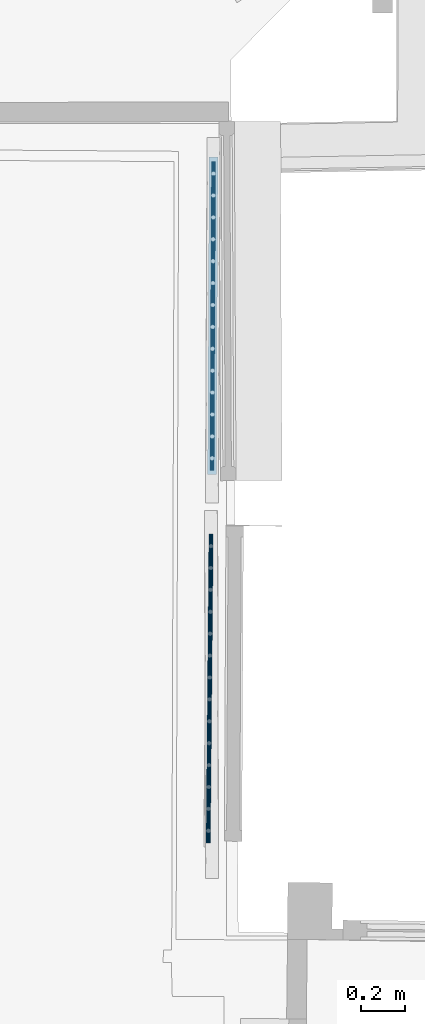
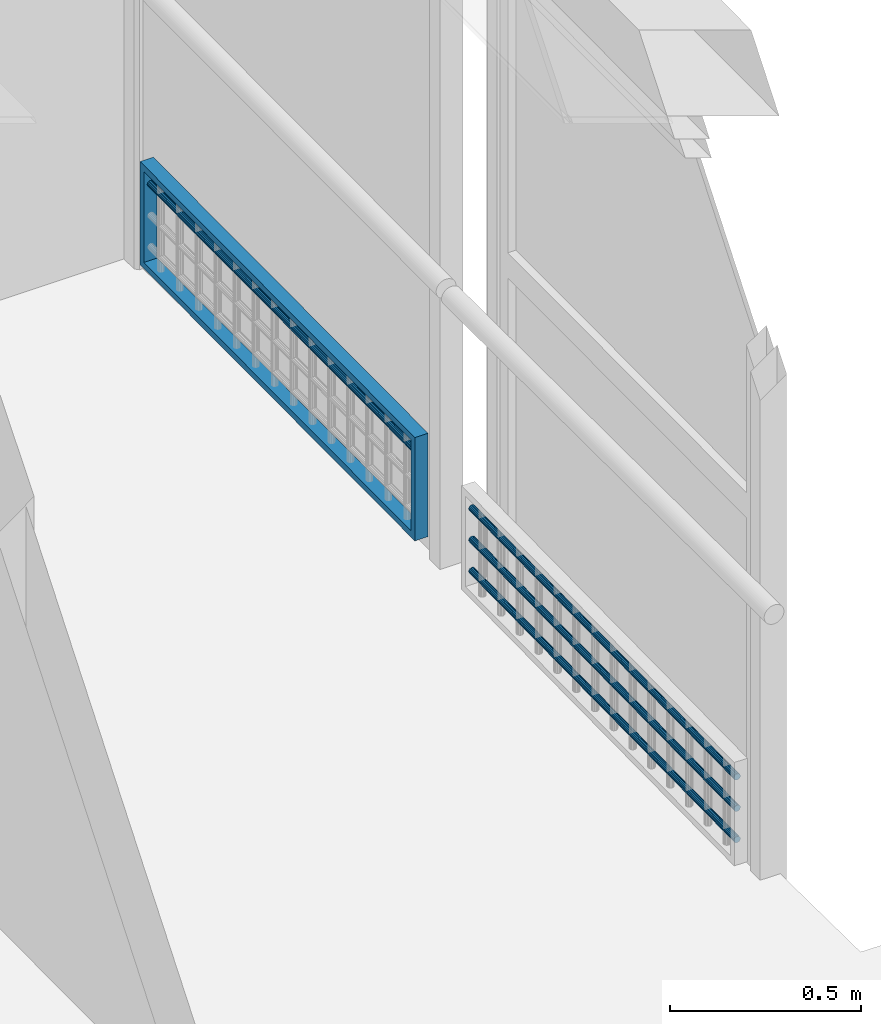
# One storey, part 27 of 72: 5 members, 2 elements without a shape of their own.
"""IFC2X3 building model written with IfcOpenShell, lengths in centimetres."""

import ifcopenshell
import ifcopenshell.guid

model = None  # the IFC model being written
_history = None  # IfcOwnerHistory: only IFC2X3 demands one
_inside = {}  # id of a spatial element -> (the spatial element, [elements in it])
_under = {}  # id of a project, library or spatial element -> (it, [spatial elements below it])
_declared = {}  # id of a project -> (the project, [libraries it declares])
_typed = {}  # id of a type object -> (the type object, [elements of that type])
_made_of = {}  # id of a material, layer set ... -> (it, [elements and type objects made of it])


def new_model(schema):
    """Start an empty IFC model of exactly this schema.

    Asked for "IFC4X3", IfcOpenShell would pick the latest addendum, in which some entities
    have other attributes; the version numbers below select the first issue.
    IFC2X3 requires an IfcOwnerHistory on every rooted entity: one is made here for all.
    """
    global model, _history
    if schema == "IFC4X3":
        model = ifcopenshell.file(schema_version=(4, 3, 0, 0))
    else:
        model = ifcopenshell.file(schema=schema)
    _inside.clear()
    _under.clear()
    _declared.clear()
    _typed.clear()
    _made_of.clear()
    _history = None
    if model.schema == "IFC2X3":
        org = make("IfcOrganization", Name="unknown")
        user = make(
            "IfcPersonAndOrganization",
            ThePerson=make("IfcPerson", FamilyName="unknown"),
            TheOrganization=org,
        )
        app = make(
            "IfcApplication",
            ApplicationDeveloper=org,
            Version="unknown",
            ApplicationFullName="unknown",
            ApplicationIdentifier="unknown",
        )
        _history = make(
            "IfcOwnerHistory",
            OwningUser=user,
            OwningApplication=app,
            ChangeAction="ADDED",
            CreationDate=0,
        )
    return model


def make(cls, **values):
    """One entity of the class cls with the attributes given. An attribute that is None is left unset."""
    return model.create_entity(
        cls, **{name: value for name, value in values.items() if value is not None}
    )


def entity(cls, *values):
    """Any entity or typed value of the class cls, its attributes in the order of the schema. None: left unset."""
    e = model.create_entity(cls)
    for i, value in enumerate(values):
        if value is not None:
            e[i] = value
    return e


def rooted(cls, **values):
    """An entity with a GlobalId (a new one), such as an element, a storey or a relation."""
    return make(cls, GlobalId=ifcopenshell.guid.new(), OwnerHistory=_history, **values)


def si_unit(unit_type, name, prefix=None):
    """IfcSIUnit, for example si_unit("LENGTHUNIT", "METRE", prefix="MILLI")."""
    return make("IfcSIUnit", UnitType=unit_type, Prefix=prefix, Name=name)


def converted_unit(unit_type, name, factor, base, dimensions=None, offset=None):
    """IfcConversionBasedUnit, such as the inch: factor (a typed value) times the base unit."""
    return make(
        "IfcConversionBasedUnit"
        if offset is None
        else "IfcConversionBasedUnitWithOffset",
        ConversionOffset=offset,
        Dimensions=None
        if dimensions is None
        else entity("IfcDimensionalExponents", *dimensions),
        UnitType=unit_type,
        Name=name,
        ConversionFactor=make(
            "IfcMeasureWithUnit", ValueComponent=factor, UnitComponent=base
        ),
    )


def assignment(units):
    """IfcUnitAssignment: the units of a project."""
    return None if units is None else make("IfcUnitAssignment", Units=units)


def point(xyz):
    """IfcCartesianPoint."""
    return None if xyz is None else make("IfcCartesianPoint", Coordinates=xyz)


def direction(xyz):
    """IfcDirection."""
    return None if xyz is None else make("IfcDirection", DirectionRatios=xyz)


def frame(location, z_axis=None, x_axis=None):
    """IfcAxis2Placement3D, a coordinate frame: its origin and axes. An axis left out is left unset."""
    return make(
        "IfcAxis2Placement3D",
        Location=point(location),
        Axis=direction(z_axis),
        RefDirection=direction(x_axis),
    )


def origin():
    """The frame at (0, 0, 0) with its axes left unset."""
    return frame((0.0, 0.0, 0.0))


def origin_with_axes():
    """The frame at (0, 0, 0) with the z axis (0, 0, 1) and the x axis (1, 0, 0) written out."""
    return frame((0.0, 0.0, 0.0), z_axis=(0.0, 0.0, 1.0), x_axis=(1.0, 0.0, 0.0))


def place(relative_to, where):
    """IfcLocalPlacement: puts the frame where relative to a parent placement (None: the world)."""
    return make(
        "IfcLocalPlacement", PlacementRelTo=relative_to, RelativePlacement=where
    )


def context(
    kind, dimensions, precision=None, world=None, true_north=None, identifier=None
):
    """IfcGeometricRepresentationContext, for example the 3D "Model" context."""
    return make(
        "IfcGeometricRepresentationContext",
        ContextIdentifier=identifier,
        ContextType=kind,
        CoordinateSpaceDimension=dimensions,
        Precision=precision,
        WorldCoordinateSystem=world,
        TrueNorth=true_north,
    )


def subcontext(parent, identifier, kind, view, scale=None):
    """IfcGeometricRepresentationSubContext, for example "Body" below "Model"."""
    return make(
        "IfcGeometricRepresentationSubContext",
        ContextIdentifier=identifier,
        ContextType=kind,
        ParentContext=parent,
        TargetScale=scale,
        TargetView=view,
    )


def project(units=None, contexts=None):
    """IfcProject with its units and contexts."""
    return rooted(
        "IfcProject",
        Name="project",
        RepresentationContexts=contexts,
        UnitsInContext=assignment(units),
    )


def spatial(cls, under=None, at=None, **own):
    """A site, building, storey or space (cls), placed at a placement, below another one or the project."""
    s = rooted(cls, ObjectPlacement=at, **own)
    if under is not None:
        _under.setdefault(under.id(), (under, []))[1].append(s)
    return s


def faces_of(points, faces, orient=None, outer=None):
    """IfcFace entities. A face is a list of loops; a loop is a list of indices into points, from 0.

    orient and outer hold one flag for each loop. By default every Orientation is true, the
    first loop of a face is its IfcFaceOuterBound and the others are IfcFaceBound.
    """
    made = []
    for i, loops in enumerate(faces):
        bounds = []
        for j, loop in enumerate(loops):
            is_outer = j == 0 if outer is None else outer[i][j]
            bounds.append(
                make(
                    "IfcFaceOuterBound" if is_outer else "IfcFaceBound",
                    Bound=make("IfcPolyLoop", Polygon=[points[k] for k in loop]),
                    Orientation=True if orient is None else orient[i][j],
                )
            )
        made.append(make("IfcFace", Bounds=bounds))
    return made


def faceted_brep(points, faces, orient=None, outer=None, voids=None):
    """IfcFacetedBrep: a solid bounded by flat faces; with voids (closed shells), ...WithVoids."""
    shared = [point(p) for p in points]
    hull = make("IfcClosedShell", CfsFaces=faces_of(shared, faces, orient, outer))
    if voids is None:
        return make("IfcFacetedBrep", Outer=hull)
    return make(
        "IfcFacetedBrepWithVoids",
        Outer=hull,
        Voids=[
            make(cls, CfsFaces=faces_of(shared, fs, o, b)) for cls, fs, o, b in voids
        ],
    )


def shape(context_of_items, identifier, shape_type, items):
    """IfcShapeRepresentation: the items that make up one representation, for example the "Body"."""
    return make(
        "IfcShapeRepresentation",
        ContextOfItems=context_of_items,
        RepresentationIdentifier=identifier,
        RepresentationType=shape_type,
        Items=items,
    )


def material(Name=None, Category=None):
    """IfcMaterial."""
    return make("IfcMaterial", Name=Name, Category=Category)


def made_of(thing, what):
    """Note that an element or type object is made of a material, layer set ...; save() writes the relation."""
    if what is not None:
        _made_of.setdefault(what.id(), (what, []))[1].append(thing)
    return thing


def type_object(cls, material=None, **own):
    """A type object (cls), such as IfcWallType, which elements share."""
    return made_of(rooted(cls, **own), material)


def element(
    cls,
    number,
    at=None,
    inside=None,
    cuts=None,
    type_object=None,
    material=None,
    context=None,
    identifier="Body",
    shape_type=None,
    held_by="IfcProductDefinitionShape",
    body=None,
    shapes=None,
    **own,
):
    """One element of the class cls, such as IfcWall. Its Tag is "e" and its number.

    at: its placement. inside: the storey or other place that contains it. cuts: it is an
    opening in that element (IfcRelVoidsElement). A single representation is given by context,
    identifier, shape_type and body (its items); several are given by shapes. held_by: the class
    of the entity that holds the representations. save() writes the other relations.
    """
    e = rooted(cls, Tag="e%d" % number, ObjectPlacement=at, **own)
    if body is not None:
        shapes = [shape(context, identifier, shape_type, body)]
    if shapes is not None:
        e.Representation = make(held_by, Representations=shapes)
    if inside is not None:
        _inside.setdefault(inside.id(), (inside, []))[1].append(e)
    if cuts is not None:
        rooted(
            "IfcRelVoidsElement", RelatingBuildingElement=cuts, RelatedOpeningElement=e
        )
    if type_object is not None:
        _typed.setdefault(type_object.id(), (type_object, []))[1].append(e)
    return made_of(e, material)


def aggregate(whole, parts):
    """IfcRelAggregates: a whole, such as a stair, and the parts it consists of."""
    return rooted("IfcRelAggregates", RelatingObject=whole, RelatedObjects=parts)


def save(model, path):
    """Write the relations noted so far, then the file.

    IfcRelAggregates (storeys below a building ...), IfcRelContainedInSpatialStructure (elements
    in a storey), IfcRelDefinesByType, IfcRelAssociatesMaterial and IfcRelDeclares: one each for
    every whole, place, type object, material and project.
    """
    for whole, parts in _under.values():
        aggregate(whole, parts)
    for where, things in _inside.values():
        rooted(
            "IfcRelContainedInSpatialStructure",
            RelatedElements=things,
            RelatingStructure=where,
        )
    for kind, things in _typed.values():
        rooted("IfcRelDefinesByType", RelatedObjects=things, RelatingType=kind)
    for what, things in _made_of.values():
        rooted("IfcRelAssociatesMaterial", RelatedObjects=things, RelatingMaterial=what)
    for by, libraries in _declared.values():
        rooted("IfcRelDeclares", RelatingContext=by, RelatedDefinitions=libraries)
    model.write(path)


model = new_model("IFC2X3")

# Units and contexts
model_context = context("Model", 3, precision=0.0001, world=origin(), true_north=direction((0.225632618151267, 0.974212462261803, 0.0)))
body_context = subcontext(model_context, "Body", "Model", "MODEL_VIEW")
ifc_project = project(units=[si_unit("LENGTHUNIT", "METRE", prefix="CENTI"), si_unit("AREAUNIT", "SQUARE_METRE", prefix="CENTI"), si_unit("VOLUMEUNIT", "CUBIC_METRE", prefix="CENTI"), converted_unit("PLANEANGLEUNIT", "DEGREE", entity("IfcRatioMeasure", 0.0174532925), si_unit("PLANEANGLEUNIT", "RADIAN"), dimensions=[0, 0, 0, 0, 0, 0, 0])], contexts=[model_context])

# Site, building, storey
site_placement = place(None, origin_with_axes())
site = spatial("IfcSite", under=ifc_project, at=site_placement, Name="Default Site", CompositionType="ELEMENT")
building_placement = place(site_placement, origin_with_axes())
building = spatial("IfcBuilding", under=site, at=building_placement, Name="Default Building", CompositionType="ELEMENT")
storey_placement = place(building_placement, frame((0.0, 0.0, 853.910374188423), z_axis=(0.0, 0.0, 1.0), x_axis=(1.0, 0.0, 0.0)))
storey = spatial("IfcBuildingStorey", under=building, at=storey_placement, Name="Niveau 2", CompositionType="ELEMENT", Elevation=853.910374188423)

# Assembly, members
building_element_proxy_type = type_object("IfcBuildingElementProxyType", Name="Type Object", PredefinedType="NOTDEFINED")
assembly_1_placement = place(storey_placement, frame((1064.66913892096, -34.4836063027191, 11.9999999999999), z_axis=(0.0, 0.0, 1.0), x_axis=(-0.00922380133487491, -0.999957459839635, 0.0)))
assembly_1 = element("IfcElementAssembly", 1, at=assembly_1_placement, inside=storey, type_object=building_element_proxy_type, Name="Panneau 1702022", ObjectType="Precast panel", PredefinedType="USERDEFINED")
ifc_material = material(Name="Aluminium satiné")
member_1_placement = place(assembly_1_placement, frame((142.999994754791, 0.342020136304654, 25.5603075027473), z_axis=(1.0, -3.72965547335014e-15, -2.16493489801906e-15), x_axis=(-4.31252256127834e-15, -0.866024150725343, -0.500002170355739)))
member_1 = element("IfcMember", 2, at=member_1_placement, material=ifc_material, Name="4294967172", context=body_context, shape_type="Brep", body=[
    faceted_brep([(1.94289029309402e-13, 2.52575738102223e-13, -4.44089209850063e-14), (-0.347296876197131, 3.08086889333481e-13, -4.59126712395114e-14), (-0.673647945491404, -0.118779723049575, -4.73258319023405e-14), (-0.939693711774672, -0.342018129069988, -4.8477969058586e-14), (-1.11334216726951, -0.64278433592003, -4.92301051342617e-14), (-1.1736511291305, -0.984805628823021, -4.94915317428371e-14), (-1.11334356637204, -1.32682410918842, -4.92307045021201e-14), (-0.939696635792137, -1.62759289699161, -4.8479096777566e-14), (-0.673653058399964, -1.85083187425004, -4.7327356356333e-14), (-0.347301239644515, -1.96961451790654, -4.59143985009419e-14), (-4.3634471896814e-06, -1.96961451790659, -4.44106482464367e-14), (0.326346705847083, -1.85083479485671, -4.29974875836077e-14), (0.592392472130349, -1.6275963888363, -4.18453504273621e-14), (0.766040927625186, -1.32683018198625, -4.10932143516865e-14), (0.826349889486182, -0.984808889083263, -4.08317877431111e-14), (0.766042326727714, -0.642790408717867, -4.10926149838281e-14), (0.592395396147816, -0.342021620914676, -4.18442227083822e-14), (0.326351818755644, -0.118782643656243, -4.29959631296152e-14), (0.326351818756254, -0.118782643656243, -140.999994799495), (0.592395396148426, -0.342021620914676, -140.999994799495), (0.766042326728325, -0.642790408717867, -140.999994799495), (0.826349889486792, -0.984808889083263, -140.999994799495), (0.766040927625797, -1.32683018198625, -140.999994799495), (0.592392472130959, -1.6275963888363, -140.999994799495), (0.326346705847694, -1.85083479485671, -140.999994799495), (-4.36344657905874e-06, -1.96961451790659, -140.999994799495), (-0.347301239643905, -1.96961451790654, -140.999994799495), (-0.673653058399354, -1.85083187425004, -140.999994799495), (-0.939696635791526, -1.62759289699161, -140.999994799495), (-1.11334356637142, -1.32682410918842, -140.999994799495), (-1.17365112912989, -0.984805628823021, -140.999994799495), (-1.1133421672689, -0.64278433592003, -140.999994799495), (-0.939693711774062, -0.342018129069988, -140.999994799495), (-0.673647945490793, -0.118779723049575, -140.999994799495), (-0.347296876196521, 3.08086889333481e-13, -140.999994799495), (8.04911692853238e-13, 2.52575738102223e-13, -140.999994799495), (0.326351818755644, -0.118782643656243, -4.44089209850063e-14), (0.592395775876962, -0.34202116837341, -4.44089193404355e-14), (0.592395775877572, -0.34202116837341, -140.999994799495), (0.592395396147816, -0.342021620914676, -4.44089209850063e-14), (0.766043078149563, -0.642789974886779, -6.66133782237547e-14), (0.766043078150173, -0.642789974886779, -140.999994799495), (0.766042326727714, -0.642790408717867, -6.66133814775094e-14), (0.826348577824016, -0.984809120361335, -6.66133871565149e-14), (0.826348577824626, -0.984809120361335, -140.999994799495), (0.826349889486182, -0.984808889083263, -6.66133814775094e-14), (0.7660414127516, -1.32683026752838, -6.66133793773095e-14), (0.76604141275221, -1.32683026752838, -140.999994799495), (0.766040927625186, -1.32683018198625, -6.66133814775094e-14), (0.592392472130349, -1.6275963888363, -6.66133814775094e-14), (0.326346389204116, -1.85083441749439, -6.66133828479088e-14), (0.326346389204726, -1.85083441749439, -140.999994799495), (0.326346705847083, -1.85083479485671, -6.66133814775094e-14), (-3.90791506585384e-06, -1.96961576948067, -6.66133795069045e-14), (-3.90791445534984e-06, -1.96961576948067, -140.999994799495), (-4.3634471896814e-06, -1.96961451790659, -6.66133814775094e-14), (-0.347301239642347, -1.96961365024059, -6.66133814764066e-14), (-0.347301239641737, -1.96961365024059, -140.999994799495), (-0.347301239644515, -1.96961451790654, -6.66133814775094e-14), (-0.673652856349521, -1.85083131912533, -6.6613380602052e-14), (-0.673652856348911, -1.85083131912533, -140.999994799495), (-0.673653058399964, -1.85083187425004, -6.66133814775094e-14), (-0.939697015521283, -1.62759334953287, -6.66133831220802e-14), (-0.939697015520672, -1.62759334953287, -140.999994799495), (-0.939696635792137, -1.62759289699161, -6.66133814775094e-14), (-1.11334431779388, -1.32682454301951, -6.66133847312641e-14), (-1.11334431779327, -1.32682454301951, -140.999994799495), (-1.11334356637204, -1.32682410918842, -6.66133814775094e-14), (-1.17364981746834, -0.98480539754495, -6.66133757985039e-14), (-1.17364981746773, -0.98480539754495, -140.999994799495), (-1.1736511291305, -0.984805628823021, -6.66133814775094e-14), (-1.11334265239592, -0.642784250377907, -6.66133835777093e-14), (-1.11334265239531, -0.642784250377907, -140.999994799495), (-1.11334216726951, -0.64278433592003, -6.66133814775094e-14), (-0.939693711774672, -0.342018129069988, -6.66133814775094e-14), (-0.939693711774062, -0.342018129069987, -140.999994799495), (-1.1133421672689, -0.642784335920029, -140.999994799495), (-0.673647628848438, -0.118780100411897, -6.66133801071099e-14), (-0.673647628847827, -0.118780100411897, -140.999994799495), (-0.673647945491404, -0.118779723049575, -6.66133814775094e-14), (-0.347297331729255, 1.25157438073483e-06, -6.66133834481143e-14), (-0.347297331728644, 1.25157438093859e-06, -140.999994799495), (-0.673647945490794, -0.118779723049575, -140.999994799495), (-0.347296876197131, 3.08086889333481e-13, -6.66133814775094e-14), (-1.97343633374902e-12, -8.67665696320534e-07, -4.44089209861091e-14), (-1.36281366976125e-12, -8.67665696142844e-07, -140.999994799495), (-0.347296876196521, 3.08264578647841e-13, -140.999994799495), (0.326351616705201, -0.118783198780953, -4.44089218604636e-14), (0.326351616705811, -0.118783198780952, -140.999994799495), (8.0494811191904e-13, 2.52675797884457e-13, -140.999994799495)], [[[0, 1, 2, 3, 4, 5, 6, 7, 8, 9, 10, 11, 12, 13, 14, 15, 16, 17]], [[18, 19, 20, 21, 22, 23, 24, 25, 26, 27, 28, 29, 30, 31, 32, 33, 34, 35]], [[36, 37, 38, 18]], [[39, 40, 41, 19]], [[42, 43, 44, 20]], [[45, 46, 47, 21]], [[48, 49, 23, 22]], [[49, 50, 51, 23]], [[52, 53, 54, 24]], [[55, 56, 57, 25]], [[58, 59, 60, 26]], [[61, 62, 63, 27]], [[64, 65, 66, 28]], [[67, 68, 69, 29]], [[70, 71, 72, 30]], [[73, 74, 75, 76]], [[74, 77, 78, 75]], [[79, 80, 81, 82]], [[83, 84, 85, 86]], [[0, 87, 88, 89]]]),
])
member_2_placement = place(assembly_1_placement, frame((142.999994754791, 0.342020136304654, 15.5603080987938), z_axis=(1.0, -3.73139019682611e-15, -2.16406753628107e-15), x_axis=(-4.31252256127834e-15, -0.86602600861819, -0.499998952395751)))
member_2 = element("IfcMember", 3, at=member_2_placement, material=ifc_material, Name="4294967171", context=body_context, shape_type="Brep", body=[
    faceted_brep([(4.71844785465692e-13, 1.38777878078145e-14, -6.66133814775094e-14), (-0.347296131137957, 6.93889390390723e-14, -6.81177309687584e-14), (-0.673647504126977, -0.11878222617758, -6.95311499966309e-14), (-0.939691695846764, -0.342020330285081, -7.06831609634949e-14), (-1.11333977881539, -0.642788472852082, -7.1434814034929e-14), (-1.17364672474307, -0.984808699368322, -7.16954465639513e-14), (-1.11333863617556, -1.32682824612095, -7.1433622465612e-14), (-0.939690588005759, -1.627596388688, -7.06809260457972e-14), (-0.673645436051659, -1.85083308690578, -6.95281364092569e-14), (-0.347293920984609, -1.96961580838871, -6.81143046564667e-14), (2.95521031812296e-06, -1.96961451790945, -6.66099519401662e-14), (0.326354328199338, -1.8508322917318, -6.51965329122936e-14), (0.592398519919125, -1.6275941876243, -6.40445219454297e-14), (0.766046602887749, -1.32682604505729, -6.32928688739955e-14), (0.826353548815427, -0.984805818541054, -6.30322363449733e-14), (0.766045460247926, -0.642786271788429, -6.32940604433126e-14), (0.592396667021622, -0.342019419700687, -6.40467600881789e-14), (0.326352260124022, -0.118781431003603, -6.51995464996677e-14), (0.326352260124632, -0.118781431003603, -140.999994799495), (0.592396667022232, -0.342019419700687, -140.999994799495), (0.766045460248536, -0.642786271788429, -140.999994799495), (0.826353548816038, -0.984805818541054, -140.999994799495), (0.766046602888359, -1.32682604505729, -140.999994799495), (0.592398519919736, -1.6275941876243, -140.999994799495), (0.326354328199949, -1.8508322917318, -140.999994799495), (2.95521092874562e-06, -1.96961451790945, -140.999994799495), (-0.347293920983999, -1.96961580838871, -140.999994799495), (-0.673645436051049, -1.85083308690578, -140.999994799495), (-0.939690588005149, -1.627596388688, -140.999994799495), (-1.11333863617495, -1.32682824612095, -140.999994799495), (-1.17364672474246, -0.984808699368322, -140.999994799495), (-1.11333977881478, -0.642788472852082, -140.999994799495), (-0.939691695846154, -0.342020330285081, -140.999994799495), (-0.673647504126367, -0.11878222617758, -140.999994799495), (-0.347296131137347, 6.93889390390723e-14, -140.999994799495), (1.08246744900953e-12, 1.38777878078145e-14, -140.999994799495), (0.326352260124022, -0.118781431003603, -6.66133814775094e-14), (0.592397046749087, -0.342018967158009, -6.66133798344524e-14), (0.592397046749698, -0.342018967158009, -140.999994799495), (0.326352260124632, -0.118781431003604, -140.999994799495), (0.592396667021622, -0.342019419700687, -6.66133814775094e-14), (0.766045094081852, -0.642786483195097, -6.66133830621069e-14), (0.766045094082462, -0.642786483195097, -140.999994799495), (0.766045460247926, -0.642786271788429, -6.66133814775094e-14), (0.826353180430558, -0.984805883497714, -6.66133830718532e-14), (0.826353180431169, -0.984805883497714, -140.999994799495), (0.826353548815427, -0.984805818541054, -6.66133814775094e-14), (0.766046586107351, -1.32682604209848, -6.66133815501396e-14), (0.766046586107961, -1.32682604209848, -140.999994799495), (0.826353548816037, -0.984805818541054, -140.999994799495), (0.766046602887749, -1.32682604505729, -6.66133814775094e-14), (0.592398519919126, -1.6275941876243, -6.66133814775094e-14), (0.592398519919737, -1.6275941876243, -140.999994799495), (0.592398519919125, -1.6275941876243, -6.66133814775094e-14), (0.326354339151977, -1.85083230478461, -6.66133814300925e-14), (0.326354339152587, -1.85083230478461, -140.999994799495), (0.326354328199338, -1.8508322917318, -6.66133814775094e-14), (3.08314948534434e-06, -1.96961486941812, -6.66133809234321e-14), (3.08315009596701e-06, -1.96961486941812, -140.999994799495), (2.95521031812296e-06, -1.96961451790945, -6.66133814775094e-14), (-0.347293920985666, -1.96961494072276, -6.66133814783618e-14), (-0.347293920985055, -1.96961494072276, -140.999994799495), (-0.347293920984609, -1.96961580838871, -6.66133814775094e-14), (-0.673645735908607, -1.85083391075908, -6.66133827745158e-14), (-0.673645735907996, -1.85083391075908, -140.999994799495), (-0.673645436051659, -1.85083308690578, -6.66133814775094e-14), (-0.939690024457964, -1.62759571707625, -6.66133790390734e-14), (-0.939690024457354, -1.62759571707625, -140.999994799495), (-0.939690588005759, -1.627596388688, -6.66133814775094e-14), (-1.1133393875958, -1.32682867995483, -6.66133847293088e-14), (-1.11333938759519, -1.32682867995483, -140.999994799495), (-1.11333863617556, -1.32682824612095, -6.66133814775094e-14), (-1.1736463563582, -0.984808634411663, -6.66133798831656e-14), (-1.17364635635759, -0.984808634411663, -140.999994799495), (-1.17364672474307, -0.984808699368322, -6.66133814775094e-14), (-1.11333976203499, -0.642788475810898, -6.66133814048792e-14), (-1.11333976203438, -0.642788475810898, -140.999994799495), (-1.11333977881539, -0.642788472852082, -6.66133814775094e-14), (-0.939691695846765, -0.342020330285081, -6.66133814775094e-14), (-0.939691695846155, -0.34202033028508, -140.999994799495), (-0.939691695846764, -0.342020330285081, -6.66133814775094e-14), (-0.673647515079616, -0.118782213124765, -6.66133815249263e-14), (-0.673647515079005, -0.118782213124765, -140.999994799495), (-0.673647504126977, -0.11878222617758, -6.66133814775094e-14), (-0.347296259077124, 3.51508744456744e-07, -6.66133820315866e-14), (-0.347296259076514, 3.51508744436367e-07, -140.999994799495), (-0.347296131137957, 6.93889390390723e-14, -6.66133814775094e-14), (-4.29042608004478e-14, 4.22812473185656e-07, -6.66133814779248e-14), (5.67718402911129e-13, 4.22812473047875e-07, -140.999994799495), (-0.347296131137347, 6.9251157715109e-14, -140.999994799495), (0.326352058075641, -0.118781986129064, -6.66133823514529e-14), (0.326352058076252, -0.118781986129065, -140.999994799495), (1.08238101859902e-12, 1.36403213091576e-14, -140.999994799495)], [[[0, 1, 2, 3, 4, 5, 6, 7, 8, 9, 10, 11, 12, 13, 14, 15, 16, 17]], [[18, 19, 20, 21, 22, 23, 24, 25, 26, 27, 28, 29, 30, 31, 32, 33, 34, 35]], [[36, 37, 38, 39]], [[40, 41, 42, 19]], [[43, 44, 45, 20]], [[46, 47, 48, 49]], [[50, 51, 52, 22]], [[53, 54, 55, 23]], [[56, 57, 58, 24]], [[59, 60, 61, 25]], [[62, 63, 64, 26]], [[65, 66, 67, 27]], [[68, 69, 70, 28]], [[71, 72, 73, 29]], [[74, 75, 76, 30]], [[77, 78, 79, 31]], [[80, 81, 82, 32]], [[83, 84, 85, 33]], [[86, 87, 88, 89]], [[0, 90, 91, 92]]]),
])
member_3_placement = place(assembly_1_placement, frame((142.999994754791, 0.342020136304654, 5.56030720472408), z_axis=(1.0, -3.72965547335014e-15, -2.16493489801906e-15), x_axis=(-4.31252256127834e-15, -0.866025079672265, -0.500000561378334)))
member_3 = element("IfcMember", 4, at=member_3_placement, material=ifc_material, Name="4294967170", context=body_context, shape_type="Brep", body=[
    faceted_brep([(3.72271657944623e-13, -9.78384040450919e-14, -6.66133814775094e-14), (-0.347296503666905, -4.44089209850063e-14, -6.81165276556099e-14), (-0.673648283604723, -0.11878194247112, -6.95291252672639e-14), (-0.939693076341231, -0.34201987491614, -7.06807966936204e-14), (-1.11334134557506, -0.642787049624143, -7.14326307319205e-14), (-1.17364892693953, -0.984807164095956, -7.16939467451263e-14), (-1.11334184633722, -1.32682746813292, -7.1433226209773e-14), (-0.939693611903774, -1.62759464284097, -7.06819140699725e-14), (-0.673649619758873, -1.85083312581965, -6.95306333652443e-14), (-0.347297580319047, -1.96961516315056, -6.81182406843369e-14), (-1.44918121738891e-06, -1.96961580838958, -6.66150961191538e-14), (0.326350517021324, -1.85083354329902, -6.52024977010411e-14), (0.592395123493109, -1.62759593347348, -6.40508270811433e-14), (0.766043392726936, -1.32682875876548, -6.32989930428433e-14), (0.826351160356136, -0.984808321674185, -6.30376762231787e-14), (0.7660438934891, -0.642788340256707, -6.32983975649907e-14), (0.592396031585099, -0.342020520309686, -6.40497080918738e-14), (0.326351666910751, -0.118782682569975, -6.52009904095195e-14), (0.326351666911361, -0.118782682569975, -140.999994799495), (0.592396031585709, -0.342020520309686, -140.999994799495), (0.766043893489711, -0.642788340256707, -140.999994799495), (0.826351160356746, -0.984808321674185, -140.999994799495), (0.766043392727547, -1.32682875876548, -140.999994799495), (0.592395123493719, -1.62759593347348, -140.999994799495), (0.326350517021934, -1.85083354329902, -140.999994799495), (-1.44918060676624e-06, -1.96961580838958, -140.999994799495), (-0.347297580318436, -1.96961516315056, -140.999994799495), (-0.673649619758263, -1.85083312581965, -140.999994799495), (-0.939693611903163, -1.62759464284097, -140.999994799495), (-1.11334184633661, -1.32682746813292, -140.999994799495), (-1.17364892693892, -0.984807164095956, -140.999994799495), (-1.11334134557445, -0.642787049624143, -140.999994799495), (-0.93969307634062, -0.34201987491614, -140.999994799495), (-0.673648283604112, -0.11878194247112, -140.999994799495), (-0.347296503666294, -4.44089209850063e-14, -140.999994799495), (9.82547376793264e-13, -9.78384040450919e-14, -140.999994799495), (0.326351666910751, -0.118782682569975, -6.66133814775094e-14), (0.592395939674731, -0.342020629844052, -6.66133818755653e-14), (0.592395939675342, -0.342020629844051, -140.999994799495), (0.592396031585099, -0.342020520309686, -6.66133814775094e-14), (0.766044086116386, -0.64278822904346, -6.66133806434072e-14), (0.766044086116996, -0.64278822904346, -140.999994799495), (0.7660438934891, -0.642788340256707, -6.66133814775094e-14), (0.826351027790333, -0.984808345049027, -6.66133820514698e-14), (0.826351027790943, -0.984808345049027, -140.999994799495), (0.826351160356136, -0.984808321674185, -6.66133814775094e-14), (0.766043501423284, -1.32682877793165, -6.66133810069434e-14), (0.766043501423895, -1.32682877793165, -140.999994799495), (0.766043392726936, -1.32682875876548, -6.66133814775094e-14), (0.592395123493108, -1.62759593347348, -6.66133814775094e-14), (0.766043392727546, -1.32682875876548, -140.999994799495), (0.32635052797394, -1.85083355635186, -6.66133814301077e-14), (0.32635052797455, -1.85083355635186, -140.999994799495), (0.326350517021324, -1.85083354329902, -6.66133814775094e-14), (-1.4850406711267e-06, -1.96961570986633, -6.66133816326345e-14), (-1.4850400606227e-06, -1.96961570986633, -140.999994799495), (-1.44918121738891e-06, -1.96961580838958, -6.66133814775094e-14), (-0.347297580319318, -1.96961558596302, -6.66133814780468e-14), (-0.347297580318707, -1.96961558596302, -140.999994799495), (-0.347297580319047, -1.96961516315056, -6.66133814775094e-14), (-0.673649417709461, -1.85083257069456, -6.6613380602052e-14), (-0.673649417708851, -1.85083257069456, -140.999994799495), (-0.673649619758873, -1.85083312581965, -6.66133814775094e-14), (-0.939693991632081, -1.62759509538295, -6.66133831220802e-14), (-0.939693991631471, -1.62759509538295, -140.999994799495), (-0.939693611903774, -1.62759464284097, -6.66133814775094e-14), (-1.11334148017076, -1.32682725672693, -6.66133798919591e-14), (-1.11334148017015, -1.32682725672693, -140.999994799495), (-1.11334184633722, -1.32682746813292, -6.66133814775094e-14), (-1.17364903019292, -0.984807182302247, -6.6613381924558e-14), (-1.17364903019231, -0.984807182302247, -140.999994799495), (-1.17364892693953, -0.984807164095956, -6.66133814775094e-14), (-1.11334132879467, -0.642787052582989, -6.66133814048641e-14), (-1.11334132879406, -0.642787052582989, -140.999994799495), (-1.11334134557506, -0.642787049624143, -6.66133814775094e-14), (-0.939693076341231, -0.34201987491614, -6.66133814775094e-14), (-1.11334134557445, -0.642787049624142, -140.999994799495), (-0.673648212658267, -0.118782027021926, -6.66133811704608e-14), (-0.673648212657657, -0.118782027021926, -140.999994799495), (-0.939693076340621, -0.34201987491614, -140.999994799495), (-0.673648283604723, -0.11878194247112, -6.66133814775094e-14), (-0.347296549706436, 1.26492789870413e-07, -6.66133816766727e-14), (-0.347296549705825, 1.26492790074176e-07, -140.999994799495), (-0.673648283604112, -0.118781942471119, -140.999994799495), (-0.347296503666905, -4.44089209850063e-14, -6.66133814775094e-14), (2.29817964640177e-13, -2.22426844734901e-07, -6.66133814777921e-14), (8.40093683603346e-13, -2.22426844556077e-07, -140.999994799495), (-0.347296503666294, -4.42300972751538e-14, -140.999994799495), (0.326351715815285, -0.118782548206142, -6.66133812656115e-14), (0.326351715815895, -0.118782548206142, -140.999994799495), (9.82624745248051e-13, -9.76258363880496e-14, -140.999994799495)], [[[0, 1, 2, 3, 4, 5, 6, 7, 8, 9, 10, 11, 12, 13, 14, 15, 16, 17]], [[18, 19, 20, 21, 22, 23, 24, 25, 26, 27, 28, 29, 30, 31, 32, 33, 34, 35]], [[36, 37, 38, 18]], [[39, 40, 41, 19]], [[42, 43, 44, 20]], [[45, 46, 47, 21]], [[48, 49, 23, 50]], [[49, 51, 52, 23]], [[53, 54, 55, 24]], [[56, 57, 58, 25]], [[59, 60, 61, 26]], [[62, 63, 64, 27]], [[65, 66, 67, 28]], [[68, 69, 70, 29]], [[71, 72, 73, 30]], [[74, 75, 32, 76]], [[75, 77, 78, 79]], [[80, 81, 82, 83]], [[84, 85, 86, 87]], [[0, 88, 89, 90]]]),
])
aggregate(assembly_1, [member_1, member_2, member_3])

assembly_2_placement = place(storey_placement, frame((1065.78157704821, 135.618268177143, 11.9999999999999), z_axis=(0.0, 0.0, 1.0), x_axis=(-0.00486371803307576, -0.999988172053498, 0.0)))
assembly_2 = element("IfcElementAssembly", 5, at=assembly_2_placement, inside=storey, type_object=building_element_proxy_type, Name="Panneau 1702025", ObjectType="Precast panel", PredefinedType="USERDEFINED")
member_4_placement = place(assembly_2_placement, frame((1.99999995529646, 1.9999999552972, 31.0000002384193), z_axis=(1.0, -5.28223298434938e-16, -1.19636099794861e-17), x_axis=(5.28223298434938e-16, 1.0, 0.0)))
member_4 = element("IfcMember", 6, at=member_4_placement, material=ifc_material, Name="4294967133", context=body_context, shape_type="Brep", body=[
    faceted_brep([(-3.53883589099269e-13, -1.72084568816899e-13, 2.1163626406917e-14), (-3.99999991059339, -1.72084568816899e-13, 2.33459084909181e-14), (-3.99999991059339, -29.0000002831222, 2.33459084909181e-14), (-3.53883589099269e-13, -29.0000002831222, 2.1163626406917e-14), (-3.99999991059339, -1.72084568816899e-13, 2.32452945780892e-14), (-3.99999991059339, 2.00000107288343, -1.99999995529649), (-3.99999991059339, -31.0000002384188, -1.99999995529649), (-3.99999991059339, -29.0000002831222, 2.35922392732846e-14), (-3.54924423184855e-13, 2.00000107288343, -1.9999999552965), (-3.54924423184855e-13, -31.0000002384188, -1.9999999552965), (-3.53833282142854e-13, -1.72084568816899e-13, 2.1163626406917e-14), (-3.53833282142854e-13, -29.0000002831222, 2.15105711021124e-14), (-3.53883589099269e-13, -29.0000002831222, 2.15105711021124e-14), (-3.99999991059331, -29.0000002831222, 140.999994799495), (-2.76861866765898e-13, -29.0000002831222, 140.999994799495), (-3.99999991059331, -31.0000002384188, 143.000004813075), (-2.75821032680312e-13, -31.0000002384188, 143.000004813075), (-2.76907839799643e-13, -29.0000002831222, 140.999994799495), (-2.75816693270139e-13, -31.0000002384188, 143.000004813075), (-3.99999991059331, -1.72084568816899e-13, 140.999994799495), (-2.76861866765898e-13, -1.72084568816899e-13, 140.999994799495), (-3.99999991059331, 2.00000107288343, 143.000004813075), (-2.75821032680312e-13, 2.00000107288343, 143.000004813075), (-2.76912179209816e-13, -29.0000002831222, 140.999994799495), (-2.76912179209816e-13, -1.72084568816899e-13, 140.999994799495), (-3.99999991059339, -1.7377143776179e-13, 2.32452945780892e-14), (-3.53883589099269e-13, -1.7377143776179e-13, 2.1163626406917e-14), (-3.53837621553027e-13, -1.72084568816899e-13, 2.1163626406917e-14), (-3.54928762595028e-13, 2.00000107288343, -1.9999999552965)], [[[0, 1, 2, 3]], [[4, 5, 6, 7]], [[5, 8, 9, 6]], [[8, 10, 11, 9]], [[12, 7, 13, 14]], [[7, 6, 15, 13]], [[6, 9, 16, 15]], [[9, 11, 17, 18]], [[14, 13, 19, 20]], [[13, 15, 21, 19]], [[15, 16, 22, 21]], [[16, 23, 24, 22]], [[20, 19, 25, 26]], [[19, 21, 5, 4]], [[21, 22, 8, 5]], [[22, 24, 27, 28]]]),
])
member_5_placement = place(assembly_2_placement, frame((142.999994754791, 0.342020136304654, 25.5603075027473), z_axis=(1.0, -4.41582534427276e-14, -2.550433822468e-14), x_axis=(-5.09930639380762e-14, -0.866024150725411, -0.500002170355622)))
member_5 = element("IfcMember", 7, at=member_5_placement, material=ifc_material, Name="4294967132", context=body_context, shape_type="Brep", body=[
    faceted_brep([(4.05231403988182e-13, -1.66533453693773e-14, 0.0), (-0.34729687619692, -1.11022302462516e-14, -1.77151539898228e-14), (-0.673647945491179, -0.118779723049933, -3.43618385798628e-14), (-0.939693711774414, -0.342018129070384, -4.79323841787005e-14), (-1.11334216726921, -0.642784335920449, -5.67898316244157e-14), (-1.17365112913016, -0.984805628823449, -5.98659636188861e-14), (-1.11334356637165, -1.32682410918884, -5.67896063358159e-14), (-0.939696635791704, -1.627592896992, -4.79319757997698e-14), (-0.673653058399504, -1.8508318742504, -3.43613482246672e-14), (-0.347301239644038, -1.96961451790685, -1.77145223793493e-14), (-4.3634467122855e-06, -1.96961451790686, 6.31610473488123e-19), (0.326346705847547, -1.85083479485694, 1.66473162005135e-14), (0.592392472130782, -1.62759638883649, 3.02178617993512e-14), (0.766040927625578, -1.32683018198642, 3.90753092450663e-14), (0.826349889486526, -0.984808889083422, 4.21514412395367e-14), (0.766042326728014, -0.64279040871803, 3.90750839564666e-14), (0.592395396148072, -0.342021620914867, 3.02174534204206e-14), (0.326351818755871, -0.118782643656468, 1.66468258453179e-14), (0.326351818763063, -0.118782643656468, -140.999994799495), (0.592395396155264, -0.342021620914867, -140.999994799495), (0.766042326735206, -0.64279040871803, -140.999994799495), (0.826349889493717, -0.984808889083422, -140.999994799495), (0.766040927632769, -1.32683018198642, -140.999994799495), (0.592392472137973, -1.62759638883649, -140.999994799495), (0.326346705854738, -1.85083479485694, -140.999994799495), (-4.36343952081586e-06, -1.96961451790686, -140.999994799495), (-0.347301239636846, -1.96961451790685, -140.999994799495), (-0.673653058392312, -1.8508318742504, -140.999994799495), (-0.939696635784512, -1.627592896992, -140.999994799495), (-1.11334356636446, -1.32682410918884, -140.999994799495), (-1.17365112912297, -0.984805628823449, -140.999994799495), (-1.11334216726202, -0.642784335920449, -140.999994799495), (-0.939693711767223, -0.342018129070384, -140.999994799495), (-0.673647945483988, -0.118779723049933, -140.999994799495), (-0.347296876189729, -1.11022302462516e-14, -140.999994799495), (7.59670104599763e-12, -1.66533453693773e-14, -140.999994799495), (0.326351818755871, -0.118782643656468, 2.22044604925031e-14), (0.59239577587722, -0.342021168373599, 4.44089403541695e-14), (0.592395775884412, -0.342021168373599, -140.999994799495), (0.326351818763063, -0.118782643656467, -140.999994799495), (0.592395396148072, -0.342021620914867, 4.44089209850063e-14), (0.766043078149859, -0.642789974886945, 2.22044988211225e-14), (0.766043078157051, -0.642789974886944, -140.999994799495), (0.766042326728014, -0.64279040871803, 2.22044604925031e-14), (0.826348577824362, -0.984809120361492, 4.4408854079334e-14), (0.826348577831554, -0.984809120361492, -140.999994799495), (0.826349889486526, -0.984808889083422, 4.44089209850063e-14), (0.76604141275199, -1.32683026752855, 4.4408945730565e-14), (0.766041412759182, -1.32683026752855, -140.999994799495), (0.826349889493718, -0.984808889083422, -140.999994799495), (0.766040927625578, -1.32683018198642, 4.44089209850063e-14), (0.592392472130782, -1.62759638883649, 2.22044604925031e-14), (0.592392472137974, -1.62759638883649, -140.999994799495), (0.76604092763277, -1.32683018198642, -140.999994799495), (0.326346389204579, -1.85083441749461, 2.22044443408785e-14), (0.326346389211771, -1.85083441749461, -140.999994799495), (0.326346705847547, -1.85083479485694, 2.22044604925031e-14), (-3.90791458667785e-06, -1.96961576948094, 2.32365442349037e-20), (-3.90790739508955e-06, -1.96961576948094, -140.999994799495), (-4.3634467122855e-06, -1.96961451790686, 0.0), (-0.34730123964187, -1.9696136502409, -2.22044604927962e-14), (-0.347301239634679, -1.9696136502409, -140.999994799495), (-0.347301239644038, -1.96961451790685, -2.22044604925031e-14), (-0.67365285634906, -1.85083131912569, -4.4408910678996e-14), (-0.673652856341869, -1.85083131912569, -140.999994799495), (-0.673653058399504, -1.8508318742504, -4.44089209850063e-14), (-0.939697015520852, -1.62759334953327, -6.66134008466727e-14), (-0.93969701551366, -1.62759334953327, -140.999994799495), (-0.939696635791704, -1.627592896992, -6.66133814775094e-14), (-1.11334431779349, -1.32682454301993, -4.44089593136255e-14), (-1.1133443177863, -1.32682454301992, -140.999994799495), (-1.11334356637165, -1.32682410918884, -4.44089209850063e-14), (-1.17364981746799, -0.984805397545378, -6.66133145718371e-14), (-1.1736498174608, -0.984805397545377, -140.999994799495), (-1.11334356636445, -1.32682410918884, -140.999994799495), (-1.17365112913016, -0.984805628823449, -6.66133814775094e-14), (-1.11334265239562, -0.642784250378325, -6.66134062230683e-14), (-1.11334265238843, -0.642784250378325, -140.999994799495), (-1.11334216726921, -0.642784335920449, -6.66133814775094e-14), (-0.939693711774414, -0.342018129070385, -4.44089209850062e-14), (-0.939693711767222, -0.342018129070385, -140.999994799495), (-0.939693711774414, -0.342018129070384, -4.44089209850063e-14), (-0.673647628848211, -0.118780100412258, -4.44089048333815e-14), (-0.673647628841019, -0.118780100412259, -140.999994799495), (-0.673647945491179, -0.118779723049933, -4.44089209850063e-14), (-0.347297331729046, 1.25157406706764e-06, -2.22044837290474e-14), (-0.347297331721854, 1.25157406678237e-06, -140.999994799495), (-0.673647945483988, -0.118779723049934, -140.999994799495), (-0.34729687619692, -1.11022302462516e-14, -2.22044604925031e-14), (-1.76249384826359e-12, -8.67665968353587e-07, 2.93118094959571e-25), (5.42897579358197e-12, -8.67665968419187e-07, -140.999994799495), (-0.347296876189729, -1.11678303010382e-14, -140.999994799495), (0.326351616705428, -0.118783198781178, 2.22044501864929e-14), (0.32635161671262, -0.118783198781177, -140.999994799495), (7.59676343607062e-12, -1.64819313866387e-14, -140.999994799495)], [[[0, 1, 2, 3, 4, 5, 6, 7, 8, 9, 10, 11, 12, 13, 14, 15, 16, 17]], [[18, 19, 20, 21, 22, 23, 24, 25, 26, 27, 28, 29, 30, 31, 32, 33, 34, 35]], [[36, 37, 38, 39]], [[40, 41, 42, 19]], [[43, 44, 45, 20]], [[46, 47, 48, 49]], [[50, 51, 52, 53]], [[51, 54, 55, 23]], [[56, 57, 58, 24]], [[59, 60, 61, 25]], [[62, 63, 64, 26]], [[65, 66, 67, 27]], [[68, 69, 70, 28]], [[71, 72, 73, 74]], [[75, 76, 77, 30]], [[78, 79, 80, 31]], [[81, 82, 83, 80]], [[84, 85, 86, 87]], [[88, 89, 90, 91]], [[0, 92, 93, 94]]]),
])
aggregate(assembly_2, [member_4, member_5])

save(model, "model.ifc")
